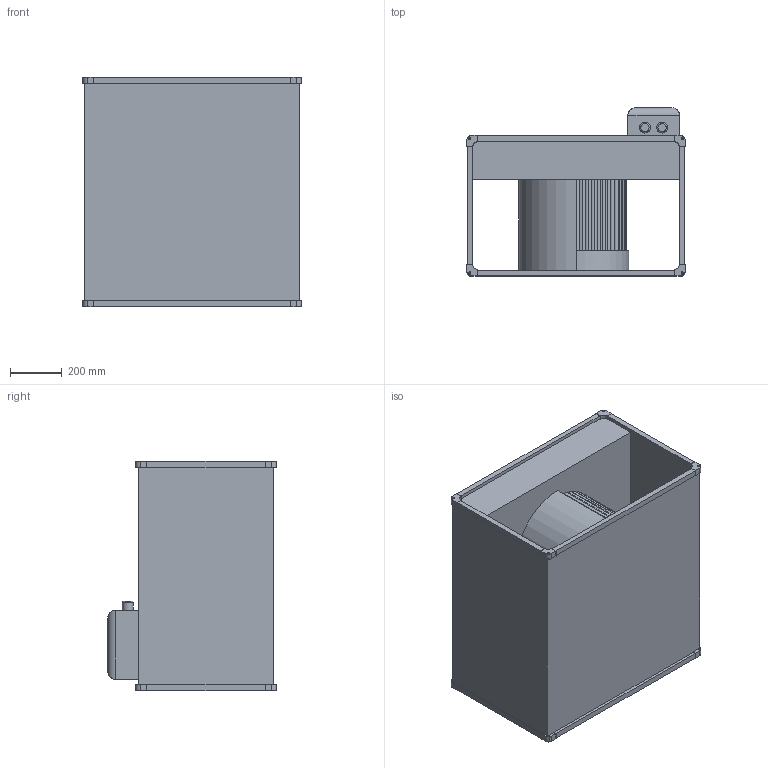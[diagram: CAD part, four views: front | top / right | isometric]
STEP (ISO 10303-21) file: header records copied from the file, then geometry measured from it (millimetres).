
FILE_DESCRIPTION(('STEP AP214'),'1');
FILE_NAME('fan_5132061200.stp','2017-03-31T18:13:11',('TraceParts'),('TraceParts S.A.'),'Spatial InterOp 3D',' ',' ');
FILE_SCHEMA(('automotive_design'));
Length unit declared in the file: millimetre
Products named in the file (1): fan_5132061200
Bounding box: 842 x 650 x 887 mm (x, y, z)
Volume: 182394068.3 mm3; surface area: 5638383.7 mm2
Topology: 1 solids, 1 shells, 265 faces, 802 edges, 534 vertices
Faces by surface type: cylinder 154, plane 107, torus 4
Entity records: 11314 total; most frequent: DIRECTION 1668, ORIENTED_EDGE 1604, CARTESIAN_POINT 1602, EDGE_CURVE 802, AXIS2_PLACEMENT_3D 600, VERTEX_POINT 534, LINE 468, VECTOR 468
